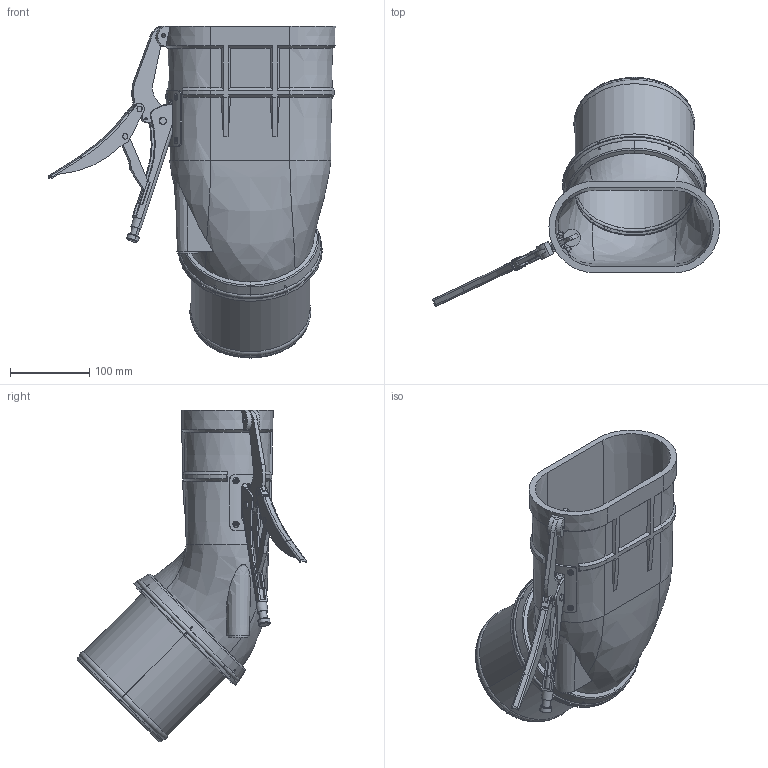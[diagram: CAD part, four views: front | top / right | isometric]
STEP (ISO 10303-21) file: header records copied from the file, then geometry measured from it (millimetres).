
FILE_DESCRIPTION((''),'2;1');
FILE_NAME('124241','2019-06-11T15:09:23',('Tomas Bellgran'),(''),'CREO PARAMETRIC BY PTC INC, 2018260','CREO PARAMETRIC BY PTC INC, 2018260','');
FILE_SCHEMA(('AUTOMOTIVE_DESIGN { 1 0 10303 214 1 1 1 1 }'));
Length unit declared in the file: millimetre
Products named in the file (11): 123944; 9531238; 145-214-1_FASTE; BOSS-EXTRUDE12; BOSS-EXTRUDE14; 145-214-2_TANG; 145-214; 145-214-4; 124209; 123782; 124241
Assembly tree (13 placements, depth 4):
  124241
    123944
    9531238
    145-214
      145-214-1_FASTE
      145-214-2_TANG
        BOSS-EXTRUDE12
        BOSS-EXTRUDE14
    145-214-4
    124209  x4
    123782
Bounding box: 363.48 x 290.17 x 419.91 mm (x, y, z)
Volume: 1134928.2 mm3; surface area: 563354.8 mm2
Topology: 11 solids, 13 shells, 558 faces, 1491 edges, 959 vertices
Faces by surface type: plane 208, cylinder 192, cone 63, torus 52, bspline 29, sphere 8, extrusion 6
Entity records: 28754 total; most frequent: CARTESIAN_POINT 9000, ORIENTED_EDGE 2828, DIRECTION 2774, EDGE_CURVE 1419, PRESENTATION_STYLE_ASSIGNMENT 1130, STYLED_ITEM 1130, CURVE_STYLE 1121, AXIS2_PLACEMENT_3D 1053
